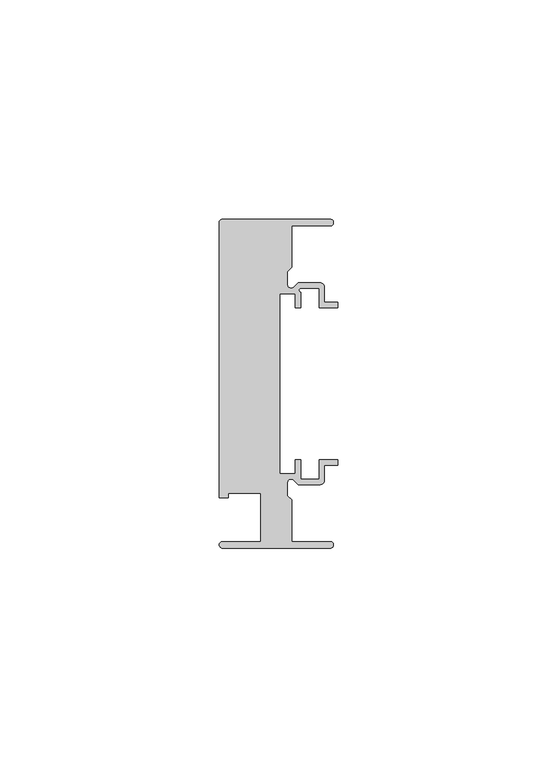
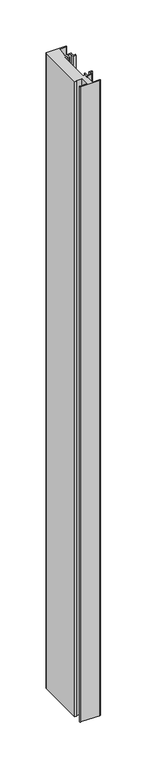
"""IFC4 building model written with IfcOpenShell, lengths in millimetres: member geometry, Прямоугольный импост : 5-AMG-1-Профиль 26Х75 Верх П."""

from ifc_helpers import new_model, si_unit, point, frame, frame_2d, origin, place, context, project, spatial, polyline, circle_curve, trimmed, segment, composite_curve, outline, extrude, source, transform, mapped, element, save


def member_6272110b(model_context):
    return source(origin(), model_context, "Body", "SweptSolid", [
        extrude(outline(composite_curve([segment(polyline([(-1.7, -37.5), (-26.25, -37.5)]), True, "CONTINUOUS"), segment(trimmed(circle_curve(frame_2d((-26.25, -36.75)), 0.75), [point((-26.25, -37.5))], [point((-26.25, -36.0))], False, "CARTESIAN"), True, "CONTINUOUS"), segment(polyline([(-26.25, -36.0), (-17.5, -36.0), (-17.5, -25.0), (-24.9359877, -25.0), (-24.9359877, -26.0), (-27.0, -26.0), (-27.0, 36.7244847)]), True, "CONTINUOUS"), segment(trimmed(circle_curve(frame_2d((-26.2240507, 36.7244847)), 0.7759493), [point((-27.0, 36.7244847))], [point((-26.25, 37.5))], False, "CARTESIAN"), True, "CONTINUOUS"), segment(polyline([(-26.25, 37.5), (-1.7, 37.5)]), True, "CONTINUOUS"), segment(trimmed(circle_curve(frame_2d((-1.7, 36.75)), 0.75), [point((-1.7, 37.5))], [point((-1.7, 36.0))], False, "CARTESIAN"), True, "CONTINUOUS"), segment(polyline([(-1.7, 36.0), (-10.5, 36.0), (-10.5, 26.5029437), (-11.5, 25.5029437), (-11.5, 22.6727922)]), True, "CONTINUOUS"), segment(trimmed(circle_curve(frame_2d((-10.6, 22.6727922)), 0.9), [point((-11.5, 22.6727922))], [point((-9.9636039, 22.0363961))], True, "CARTESIAN"), True, "CONTINUOUS"), segment(polyline([(-9.9636039, 22.0363961), (-9.0, 23.0), (-4.0, 23.0)]), True, "CONTINUOUS"), segment(trimmed(circle_curve(frame_2d((-4.0, 22.0)), 1.0), [point((-4.0, 23.0))], [point((-3.0, 22.0))], False, "CARTESIAN"), True, "CONTINUOUS"), segment(polyline([(-3.0, 22.0), (-3.0, 18.55), (0.0, 18.55), (0.0, 17.35), (-4.2, 17.35), (-4.2, 21.8), (-8.5029437, 21.8)]), True, "CONTINUOUS"), segment(trimmed(circle_curve(frame_2d((-8.3343131, 21.3314262)), 0.4979937), [point((-8.5029437, 21.8))], [point((-8.45, 20.8470563))], True, "CARTESIAN"), True, "CONTINUOUS"), segment(polyline([(-8.45, 20.8470563), (-8.45, 17.35), (-9.65, 17.35), (-9.65, 20.55), (-13.15, 20.55), (-13.15, -20.55), (-9.65, -20.55), (-9.65, -17.35), (-8.45, -17.35), (-8.45, -21.8), (-4.2, -21.8), (-4.2, -17.35), (0.0, -17.35), (0.0, -18.55), (-3.0, -18.55), (-3.0, -22.0)]), True, "CONTINUOUS"), segment(trimmed(circle_curve(frame_2d((-4.0, -22.0)), 1.0), [point((-3.0, -22.0))], [point((-4.0, -23.0))], False, "CARTESIAN"), True, "CONTINUOUS"), segment(polyline([(-4.0, -23.0), (-9.0, -23.0), (-9.9636039, -22.0363961)]), True, "CONTINUOUS"), segment(trimmed(circle_curve(frame_2d((-10.6, -22.6727922)), 0.9), [point((-9.9636039, -22.0363961))], [point((-11.5, -22.6727922))], True, "CARTESIAN"), True, "CONTINUOUS"), segment(polyline([(-11.5, -22.6727922), (-11.5, -25.5029437), (-10.5, -26.5029437), (-10.5, -36.0), (-1.7, -36.0)]), True, "CONTINUOUS"), segment(trimmed(circle_curve(frame_2d((-1.7, -36.75)), 0.75), [point((-1.7, -36.0))], [point((-1.7, -37.5))], False, "CARTESIAN"), True, "CONTINUOUS")], self_intersect=False)), frame((0.0, 0.0, -845.8978523), z_axis=(0.0, 0.0, 1.0), x_axis=(1.0, 0.0, 0.0)), (0.0, 0.0, 1.0), 845.8978523),
    ])


if __name__ == "__main__":
    model = new_model("IFC4")
    model_context = context("Model", 3, world=origin())
    ifc_project = project(units=[si_unit("LENGTHUNIT", "METRE", prefix="MILLI")], contexts=[model_context])
    site = spatial("IfcSite", under=ifc_project)
    building = spatial("IfcBuilding", under=site)
    placement = place(None, origin())
    member_shape = member_6272110b(model_context)
    element("IfcMember", 1, ObjectType="Прямоугольный импост : 5-AMG-1-Профиль 26Х75 Верх П", at=placement, inside=building, context=model_context, shape_type="MappedRepresentation", body=[
        mapped(member_shape, transform((0.0, 0.0, 0.0), x_axis=(1.0, 0.0, 0.0), y_axis=(0.0, 1.0, 0.0), z_axis=(0.0, 0.0, 1.0))),
    ])
    save(model, "model.ifc")
